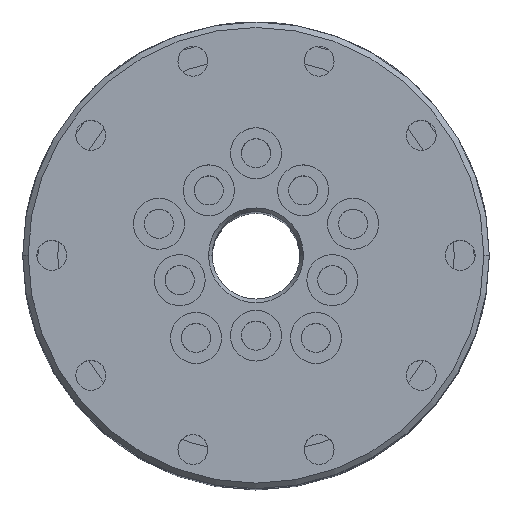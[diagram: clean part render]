
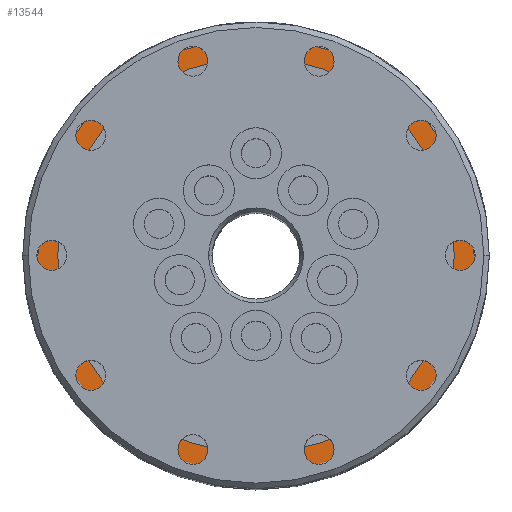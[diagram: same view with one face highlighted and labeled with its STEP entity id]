
A CAD part, top view. The second image highlights one B-rep face of the part: STEP entity #13544.
In plain terms, the highlighted planar face has unit normal (0, 0, 1).
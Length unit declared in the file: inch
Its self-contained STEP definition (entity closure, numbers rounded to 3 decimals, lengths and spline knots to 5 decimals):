
#369 = EDGE_CURVE ( 'NONE', #14060, #14137, #7159, .T. ) ;
#701 = EDGE_CURVE ( 'NONE', #14125, #14163, #7026, .T. ) ;
#1491 = CARTESIAN_POINT ( 'NONE',  ( 0., 0., -1.12505 ) ) ;
#1492 = DIRECTION ( 'NONE',  ( 0., 0., 1. ) ) ;
#1493 = DIRECTION ( 'NONE',  ( 1., 0., 0. ) ) ;
#2292 = CARTESIAN_POINT ( 'NONE',  ( -1.87, 0., -1.12505 ) ) ;
#2357 = CARTESIAN_POINT ( 'NONE',  ( -1.7, 0., -1.12505 ) ) ;
#2369 = CARTESIAN_POINT ( 'NONE',  ( 1.87, 0., -1.12505 ) ) ;
#2395 = CARTESIAN_POINT ( 'NONE',  ( 1.7, 0., -1.12505 ) ) ;
#5617 = CARTESIAN_POINT ( 'NONE',  ( 0., 0., -1.12505 ) ) ;
#5618 = DIRECTION ( 'NONE',  ( 0., 0., 1. ) ) ;
#5619 = DIRECTION ( 'NONE',  ( 1., 0., 0. ) ) ;
#6170 = CIRCLE ( 'NONE', #6173, 1.7 ) ;
#6173 = AXIS2_PLACEMENT_3D ( 'NONE', #1491, #1492, #1493 ) ;
#6360 = AXIS2_PLACEMENT_3D ( 'NONE', #7887, #7857, #7892 ) ;
#6720 = CIRCLE ( 'NONE', #6723, 1.87 ) ;
#6723 = AXIS2_PLACEMENT_3D ( 'NONE', #5617, #5618, #5619 ) ;
#7026 = CIRCLE ( 'NONE', #7492, 1.7 ) ;
#7085 = AXIS2_PLACEMENT_3D ( 'NONE', #11437, #11438, #11439 ) ;
#7159 = CIRCLE ( 'NONE', #7085, 1.87 ) ;
#7492 = AXIS2_PLACEMENT_3D ( 'NONE', #16980, #16981, #16982 ) ;
#7854 = FACE_BOUND ( 'NONE', #10475, .T. ) ;
#7857 = DIRECTION ( 'NONE',  ( 0., 0., 1. ) ) ;
#7887 = CARTESIAN_POINT ( 'NONE',  ( 0., 0., -1.12505 ) ) ;
#7889 = FACE_OUTER_BOUND ( 'NONE', #10474, .T. ) ;
#7890 = PLANE ( 'NONE',  #6360 ) ;
#7892 = DIRECTION ( 'NONE',  ( 1., 0., 0. ) ) ;
#10474 = EDGE_LOOP ( 'NONE', ( #12901, #12902 ) ) ;
#10475 = EDGE_LOOP ( 'NONE', ( #12899, #12900 ) ) ;
#11437 = CARTESIAN_POINT ( 'NONE',  ( 0., 0., -1.12505 ) ) ;
#11438 = DIRECTION ( 'NONE',  ( 0., 0., 1. ) ) ;
#11439 = DIRECTION ( 'NONE',  ( 1., 0., 0. ) ) ;
#12899 = ORIENTED_EDGE ( 'NONE', *, *, #13451, .F. ) ;
#12900 = ORIENTED_EDGE ( 'NONE', *, *, #701, .F. ) ;
#12901 = ORIENTED_EDGE ( 'NONE', *, *, #13709, .T. ) ;
#12902 = ORIENTED_EDGE ( 'NONE', *, *, #369, .T. ) ;
#13451 = EDGE_CURVE ( 'NONE', #14163, #14125, #6170, .T. ) ;
#13544 = ADVANCED_FACE ( 'NONE', ( #7854, #7889 ), #7890, .T. ) ;
#13709 = EDGE_CURVE ( 'NONE', #14137, #14060, #6720, .T. ) ;
#14060 = VERTEX_POINT ( 'NONE', #2292 ) ;
#14125 = VERTEX_POINT ( 'NONE', #2357 ) ;
#14137 = VERTEX_POINT ( 'NONE', #2369 ) ;
#14163 = VERTEX_POINT ( 'NONE', #2395 ) ;
#16980 = CARTESIAN_POINT ( 'NONE',  ( 0., 0., -1.12505 ) ) ;
#16981 = DIRECTION ( 'NONE',  ( 0., 0., 1. ) ) ;
#16982 = DIRECTION ( 'NONE',  ( 1., 0., 0. ) ) ;
